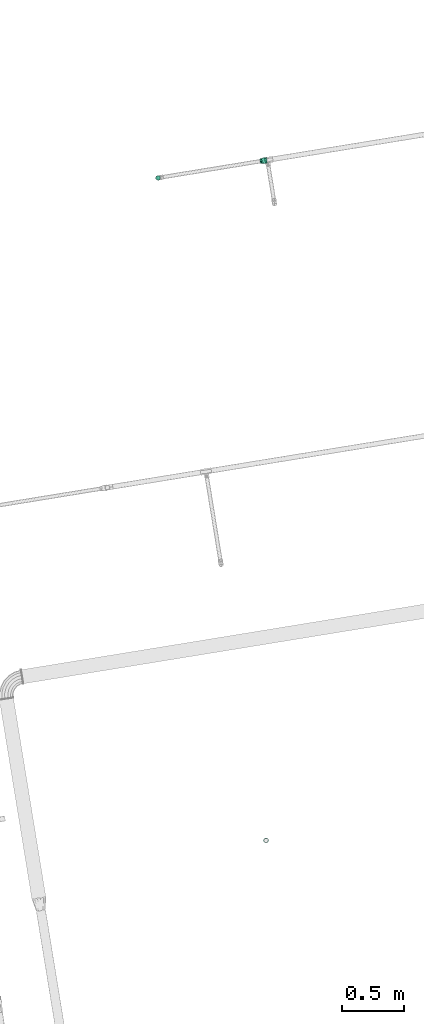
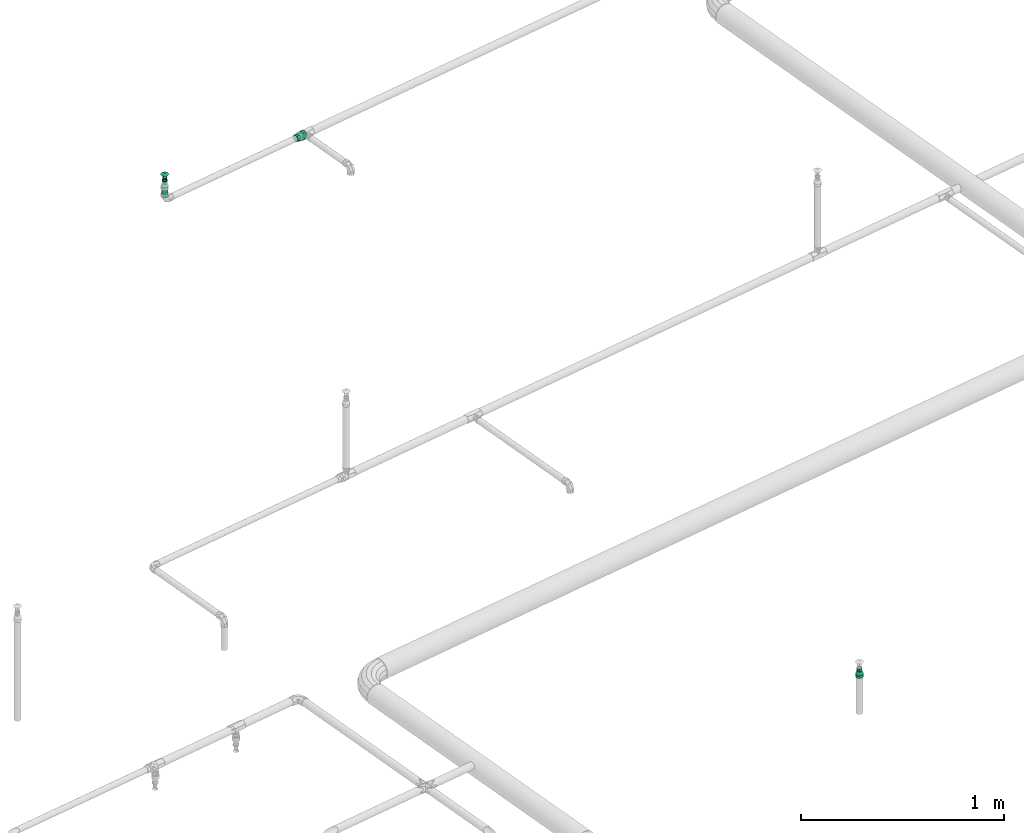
# One storey, part 35 of 46: 2 flow fittings, 1 flow segment, 1 flow terminal.
"""IFC2X3 building model written with IfcOpenShell, lengths in millimetres."""

from ifc_helpers import new_model, entity, si_unit, converted_unit, derived_unit, direction, frame, origin, origin_with_axes, origin_2d_with_axis, place, context, subcontext, project, spatial, circle, extrude, faceted_brep, source, transform, mapped, material, type_object, element, save


model = new_model("IFC2X3")

# Units and contexts
model_context = context("Model", 3, precision=0.01, world=origin(), true_north=direction((6.12323399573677e-17, 1.0)))
plan_context = context("Plan", 3, precision=1e-05, world=origin_with_axes())
body_context = subcontext(model_context, "Body", "Model", "MODEL_VIEW")
ifc_project = project(units=[converted_unit("PLANEANGLEUNIT", "DEGREE", entity("IfcPositiveLengthMeasure", 0.0174532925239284), si_unit("PLANEANGLEUNIT", "RADIAN"), dimensions=[0, 0, 0, 0, 0, 0, 0]), si_unit("AREAUNIT", "SQUARE_METRE"), si_unit("LENGTHUNIT", "METRE", prefix="MILLI"), si_unit("MASSUNIT", "GRAM", prefix="KILO"), si_unit("POWERUNIT", "WATT"), si_unit("PRESSUREUNIT", "PASCAL", prefix="KILO"), si_unit("FORCEUNIT", "NEWTON", prefix="KILO"), si_unit("ELECTRICVOLTAGEUNIT", "VOLT"), si_unit("ELECTRICCURRENTUNIT", "AMPERE"), si_unit("THERMODYNAMICTEMPERATUREUNIT", "DEGREE_CELSIUS"), si_unit("TIMEUNIT", "SECOND"), si_unit("VOLUMEUNIT", "CUBIC_METRE"), derived_unit("LINEARVELOCITYUNIT", [(si_unit("LENGTHUNIT", "METRE"), 1), (si_unit("TIMEUNIT", "SECOND"), -1)]), derived_unit("VOLUMETRICFLOWRATEUNIT", [(si_unit("VOLUMEUNIT", "CUBIC_METRE"), 1), (si_unit("TIMEUNIT", "SECOND"), -1)]), derived_unit("THERMALTRANSMITTANCEUNIT", [(si_unit("POWERUNIT", "WATT"), 1), (si_unit("THERMODYNAMICTEMPERATUREUNIT", "KELVIN"), -1), (si_unit("AREAUNIT", "SQUARE_METRE"), -1)]), derived_unit("SOUNDPRESSUREUNIT", [(si_unit("PRESSUREUNIT", "PASCAL"), 1)])], contexts=[model_context, plan_context])

# Site, building, storey
site_placement = place(None, frame((-3.09682673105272e-06, 1.93776733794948e-05, 0.0), z_axis=(0.0, 0.0, 1.0), x_axis=(-0.160806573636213, 0.986985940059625, 0.0)))
site = spatial("IfcSite", under=ifc_project, at=site_placement, Name="Default", CompositionType="ELEMENT")
building_placement = place(site_placement, frame((0.0, 0.0, 0.0), z_axis=(0.0, 0.0, 1.0), x_axis=(1.0, -2.77555756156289e-17, 0.0)))
building = spatial("IfcBuilding", under=site, at=building_placement, Name="Bygning (endres i Project Information)", CompositionType="ELEMENT")
storey_placement = place(building_placement, frame((0.0, 0.0, 51360.0000000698), z_axis=(0.0, 0.0, 1.0), x_axis=(1.0, -2.77555756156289e-17, 0.0)))
storey = spatial("IfcBuildingStorey", under=building, at=storey_placement, Name="H01-Nivå D+0,36", CompositionType="ELEMENT", Elevation=51360.0000000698)

# Flow fittings
ifc_material = material(Name="3320.001")
pipe_fitting_type_1 = type_object("IfcPipeFittingType", Name="RS_53_PIF_UN_Reducing-Socket-EN10241_MC_gen:RS_53_PIF_UN_Reducing-Socket-EN10241_MC_gen", PredefinedType="NOTDEFINED", material=ifc_material)
shared_shape_1 = source(origin(), body_context, "Body", "Brep", [
    faceted_brep([(0.0, 0.0, 24.5), (0.0, 6.34106660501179, 23.6651827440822), (0.0, 12.25, 21.2176223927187), (0.0, 17.3241161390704, 17.3241161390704), (0.0, 21.2176223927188, 12.25), (0.0, 23.6651827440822, 6.34106660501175), (0.0, 24.5, 0.0), (0.0, 23.6651827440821, -6.34106660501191), (0.0, 21.2176223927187, -12.2500000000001), (0.0, 17.3241161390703, -17.3241161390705), (0.0, 12.2499999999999, -21.2176223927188), (0.0, 6.34106660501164, -23.6651827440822), (0.0, 0.0, -24.5), (0.0, -6.34106660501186, -23.6651827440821), (0.0, -12.2500000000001, -21.2176223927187), (0.0, -17.3241161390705, -17.3241161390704), (0.0, -21.2176223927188, -12.2499999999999), (0.0, -23.6651827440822, -6.34106660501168), (0.0, -24.5, 0.0), (0.0, -23.6651827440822, 6.34106660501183), (0.0, -21.2176223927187, 12.2500000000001), (0.0, -17.3241161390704, 17.3241161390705), (0.0, -12.25, 21.2176223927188), (0.0, -6.34106660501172, 23.6651827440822), (18.6666666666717, -8.25137606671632, -22.6729794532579), (18.6666666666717, -18.7677686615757, -15.7486780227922), (18.6666666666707, -20.8950763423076, -12.0642027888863), (18.6666666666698, -23.0223840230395, -8.37972755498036), (18.6666666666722, -12.2493529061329, -21.2179959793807), (18.6666666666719, -15.5085607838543, -18.4833370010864), (18.6666666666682, -23.7125607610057, -4.46565710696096), (18.6666666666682, -23.7611920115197, -4.18986377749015), (18.6666666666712, -4.25339922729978, -24.1279629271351), (18.6666666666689, 4.25560674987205, -24.1275736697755), (18.6666666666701, 0.00110376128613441, -24.1277682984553), (18.6666666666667, -24.5, 0.0), (18.6666666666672, 8.25345045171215, -22.6722244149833), (18.6666666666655, 12.2512941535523, -21.2168751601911), (18.6666666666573, 23.0231506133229, -8.37762113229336), (18.6666666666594, 20.8961800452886, -12.062290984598), (18.6666666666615, 18.7692094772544, -15.7469608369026), (18.6666666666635, 15.5102518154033, -18.4819179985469), (18.6666666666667, 24.5, 0.0), (18.6666666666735, 18.7692094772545, 15.7469608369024), (18.666666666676, 20.8961800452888, 12.0622909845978), (18.6666666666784, 23.023150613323, 8.3776211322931), (18.6666666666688, 12.2512941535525, 21.216875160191), (18.6666666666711, 15.5102518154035, 18.4819179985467), (18.6666666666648, 4.25560674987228, 24.1275736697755), (18.6666666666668, 8.25345045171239, 22.6722244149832), (18.6666666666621, -4.25339922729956, 24.1279629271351), (18.6666666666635, 0.00110376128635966, 24.1277682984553), (18.6666666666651, -23.7611920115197, 4.1898637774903), (18.6666666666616, -8.25137606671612, 22.672979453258), (18.666666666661, -12.2493529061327, 21.2179959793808), (18.6666666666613, -15.5085607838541, 18.4833370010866), (18.6666666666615, -18.7677686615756, 15.7486780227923), (18.6666666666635, -23.0223840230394, 8.37972755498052), (18.6666666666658, -23.7125607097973, 4.46565739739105), (18.6666666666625, -20.8950763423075, 12.0642027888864), (37.3333333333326, 19.750000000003, 0.0), (37.3333333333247, 18.5595959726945, -6.75306577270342), (37.3333333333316, 9.87626627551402, -17.1032705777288), (37.3333333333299, 12.5033702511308, -14.8985095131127), (37.3333333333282, 15.1304742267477, -12.6937484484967), (37.3333333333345, 3.43075149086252, -19.4497414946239), (37.333333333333, 6.65350888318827, -18.2765060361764), (37.3333333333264, 16.8450350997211, -9.72340711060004), (37.3333333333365, -3.42859151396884, -19.4501223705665), (37.3333333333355, 0.00107998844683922, -19.4499319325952), (37.3333333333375, -9.87436684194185, -17.1043672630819), (37.333333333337, -6.65147917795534, -18.2772448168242), (37.3333333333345, -19.1544229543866, -3.37756341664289), (37.3333333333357, -18.558845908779, -6.75512683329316), (37.3333333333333, -19.7499999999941, 0.0), (37.3333333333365, -16.8439551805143, -9.72527774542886), (37.3333333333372, -15.1290644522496, -12.6954286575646), (37.3333333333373, -12.5017156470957, -14.8998979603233), (37.3333333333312, -18.5588459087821, 6.755126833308), (37.3333333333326, -19.1544229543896, 3.37756341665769), (37.3333333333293, -15.1290644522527, 12.6954286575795), (37.3333333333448, 18.559595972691, 6.75306577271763), (37.3333333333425, 16.8450350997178, 9.72340711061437), (37.3333333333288, -9.87436684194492, 17.104367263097), (37.3333333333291, -12.5017156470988, 14.8998979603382), (37.3333333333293, -6.65147917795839, 18.2772448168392), (37.3333333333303, -16.8439551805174, 9.72527774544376), (37.333333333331, 0.00107998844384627, 19.4499319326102), (37.3333333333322, 3.43075149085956, 19.4497414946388), (37.3333333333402, 15.1304742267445, 12.6937484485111), (37.333333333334, 6.65350888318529, 18.2765060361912), (37.3333333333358, 9.87626627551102, 17.1032705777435), (37.333333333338, 12.5033702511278, 14.8985095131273), (37.3333333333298, -3.42859151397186, 19.4501223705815), (56.0, 5.11167614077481, -19.0770350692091), (56.0, 9.87500000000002, -17.1040017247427), (56.0, 13.9653589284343, -13.9653589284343), (56.0, 17.1040017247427, -9.87499999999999), (56.0, 19.0770350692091, -5.11167614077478), (56.0, 19.75, 0.0), (56.0, 19.0770350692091, 5.1116761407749), (56.0, 17.1040017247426, 9.8750000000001), (56.0, 13.9653589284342, 13.9653589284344), (56.0, 9.87499999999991, 17.1040017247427), (56.0, 5.11167614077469, 19.0770350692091), (56.0, 0.0, 19.75), (56.0, -5.11167614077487, 19.0770350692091), (56.0, -9.87500000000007, 17.1040017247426), (56.0, -13.9653589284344, 13.9653589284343), (56.0, -17.1040017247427, 9.87499999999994), (56.0, -19.0770350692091, 5.11167614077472), (56.0, -19.75, 0.0), (56.0, -19.0770350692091, -5.11167614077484), (56.0, -17.1040017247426, -9.87500000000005), (56.0, -13.9653589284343, -13.9653589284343), (56.0, -9.87499999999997, -17.1040017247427), (56.0, -5.11167614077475, -19.0770350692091), (56.0, 0.0, -19.75)], [[[0, 1, 2, 3, 4, 5, 6, 7, 8, 9, 10, 11, 12, 13, 14, 15, 16, 17, 18, 19, 20, 21, 22, 23]], [[24, 14, 13]], [[16, 15, 25]], [[16, 25, 26, 27]], [[28, 29, 14]], [[17, 27, 30, 31]], [[31, 18, 17]], [[16, 27, 17]], [[13, 32, 24]], [[25, 15, 29]], [[12, 33, 34, 32]], [[24, 28, 14]], [[14, 29, 15]], [[31, 35, 18]], [[33, 12, 11]], [[36, 10, 37]], [[8, 38, 39, 40]], [[10, 36, 11]], [[8, 7, 38]], [[9, 40, 41]], [[33, 11, 36]], [[8, 40, 9]], [[41, 37, 10]], [[7, 42, 38]], [[7, 6, 42]], [[12, 32, 13]], [[41, 10, 9]], [[42, 6, 5]], [[4, 3, 43]], [[4, 43, 44, 45]], [[46, 47, 2]], [[45, 42, 5]], [[1, 48, 49]], [[43, 3, 47]], [[0, 50, 51, 48]], [[2, 47, 3]], [[50, 0, 23]], [[0, 48, 1]], [[18, 52, 19]], [[53, 22, 54]], [[49, 2, 1]], [[55, 22, 21]], [[35, 52, 18]], [[4, 45, 5]], [[22, 53, 23]], [[21, 56, 55]], [[50, 23, 53]], [[49, 46, 2]], [[20, 56, 21]], [[57, 20, 19]], [[19, 52, 58, 57]], [[55, 54, 22]], [[59, 56, 20, 57]], [[42, 60, 61]], [[41, 62, 37]], [[63, 40, 64]], [[40, 39, 64]], [[33, 36, 65]], [[65, 36, 66]], [[38, 42, 61]], [[64, 39, 67]], [[41, 40, 63]], [[36, 37, 66]], [[62, 41, 63]], [[38, 67, 39]], [[68, 34, 69]], [[68, 32, 34]], [[24, 70, 28]], [[32, 68, 71]], [[72, 35, 31, 30]], [[73, 27, 26]], [[72, 74, 35]], [[26, 75, 73]], [[76, 25, 29]], [[29, 77, 76]], [[70, 24, 71]], [[24, 32, 71]], [[70, 77, 28]], [[76, 75, 25]], [[28, 77, 29]], [[25, 75, 26]], [[73, 30, 27]], [[30, 73, 72]], [[66, 37, 62]], [[69, 34, 33]], [[69, 33, 65]], [[67, 38, 61]], [[78, 58, 79]], [[80, 55, 56]], [[81, 45, 82]], [[78, 59, 57]], [[83, 53, 54]], [[55, 80, 84]], [[79, 58, 52, 35]], [[78, 57, 58]], [[84, 54, 55]], [[85, 50, 53]], [[79, 35, 74]], [[86, 56, 59]], [[84, 83, 54]], [[48, 87, 88]], [[49, 48, 88]], [[59, 78, 86]], [[53, 83, 85]], [[87, 48, 51]], [[81, 60, 42]], [[44, 43, 89]], [[90, 46, 49]], [[47, 46, 91]], [[86, 80, 56]], [[82, 45, 44]], [[49, 88, 90]], [[92, 43, 47]], [[91, 46, 90]], [[51, 50, 93]], [[42, 45, 81]], [[85, 93, 50]], [[44, 89, 82]], [[51, 93, 87]], [[47, 91, 92]], [[89, 43, 92]], [[94, 95, 96, 97, 98, 99, 100, 101, 102, 103, 104, 105, 106, 107, 108, 109, 110, 111, 112, 113, 114, 115, 116, 117]], [[60, 99, 98]], [[97, 96, 64]], [[97, 64, 67, 61]], [[62, 63, 95]], [[61, 60, 98]], [[94, 65, 66]], [[64, 96, 63]], [[117, 68, 69, 65]], [[95, 63, 96]], [[117, 116, 68]], [[77, 70, 115]], [[66, 95, 94]], [[115, 70, 71]], [[113, 112, 73]], [[115, 71, 116]], [[117, 65, 94]], [[97, 61, 98]], [[72, 111, 74]], [[71, 68, 116]], [[113, 76, 114]], [[114, 76, 77]], [[77, 115, 114]], [[113, 73, 75, 76]], [[111, 72, 112]], [[66, 62, 95]], [[72, 73, 112]], [[85, 107, 106]], [[109, 108, 80]], [[109, 80, 86, 78]], [[83, 84, 107]], [[110, 78, 79]], [[79, 111, 110]], [[109, 78, 110]], [[106, 93, 85]], [[80, 108, 84]], [[105, 88, 87, 93]], [[85, 83, 107]], [[107, 84, 108]], [[79, 74, 111]], [[88, 105, 104]], [[90, 103, 91]], [[101, 81, 82, 89]], [[103, 90, 104]], [[101, 100, 81]], [[102, 89, 92]], [[88, 104, 90]], [[101, 89, 102]], [[92, 91, 103]], [[100, 60, 81]], [[100, 99, 60]], [[105, 93, 106]], [[92, 103, 102]]]),
])
flow_fitting_1_placement = place(storey_placement, frame((1008686.77221849, -349867.394230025, 3299.99991150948), z_axis=(6.24433694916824e-22, 2.24975948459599e-05, 0.999999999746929), x_axis=(0.0, 0.999999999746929, -2.24975948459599e-05)))
element("IfcFlowFitting", 1, at=flow_fitting_1_placement, inside=storey, type_object=pipe_fitting_type_1, material=ifc_material, Name="RS_53_PIF_UN_Reducing-Socket-EN10241_MC_gen:RS_53_PIF_UN_Reducing-Socket-EN10241_MC_gen", ObjectType="RS_53_PIF_UN_Reducing-Socket-EN10241_MC_gen:RS_53_PIF_UN_Reducing-Socket-EN10241_MC_gen", context=body_context, shape_type="MappedRepresentation", body=[
    mapped(shared_shape_1, transform((0.0, 0.0, 0.0), scale=1.0)),
])
pipe_fitting_type_2 = type_object("IfcPipeFittingType", Name="RS_53_PIF_UN_Reducing-Socket-EN10241_MC_gen:RS_53_PIF_UN_Reducing-Socket-EN10241_MC_gen", PredefinedType="NOTDEFINED", material=ifc_material)
shared_shape_2 = source(origin(), body_context, "Body", "Brep", [
    faceted_brep([(0.0, 0.0, 13.5), (0.0, 3.49405710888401, 13.0399986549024), (0.0, 6.74999999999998, 11.6913429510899), (0.0, 9.54594154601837, 9.54594154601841), (0.0, 11.6913429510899, 6.75000000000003), (0.0, 13.0399986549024, 3.49405710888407), (0.0, 13.5, 0.0), (0.0, 13.0399986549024, -3.49405710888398), (0.0, 11.6913429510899, -6.74999999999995), (0.0, 9.54594154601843, -9.54594154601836), (0.0, 6.75000000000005, -11.6913429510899), (0.0, 3.49405710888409, -13.0399986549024), (0.0, 0.0, -13.5), (0.0, -3.49405710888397, -13.0399986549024), (0.0, -6.74999999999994, -11.69134295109), (0.0, -9.54594154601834, -9.54594154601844), (0.0, -11.6913429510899, -6.75000000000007), (0.0, -13.0399986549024, -3.49405710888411), (0.0, -13.5, 0.0), (0.0, -13.0399986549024, 3.49405710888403), (0.0, -11.6913429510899, 6.74999999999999), (0.0, -9.5459415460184, 9.54594154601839), (0.0, -6.75000000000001, 11.6913429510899), (0.0, -3.49405710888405, 13.0399986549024), (17.0, 4.54589529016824, -12.4935366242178), (17.0, 10.3411162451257, -8.67820919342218), (17.0, 11.5134189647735, -6.64791735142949), (17.0, 12.6857216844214, -4.61762550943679), (17.0, 8.54506932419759, -10.1850582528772), (17.0, 6.74902240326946, -11.6919073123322), (17.0, 13.0928608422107, -2.30881275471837), (17.0, 13.5, 0.0), (17.0, 2.34276817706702, -13.2951659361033), (17.0, -0.00166747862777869, -13.2948718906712), (17.0, -2.34610313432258, -13.2945778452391), (17.0, -8.54762393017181, -10.1829144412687), (17.0, -6.75195505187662, -11.6902139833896), (17.0, -4.5490290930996, -12.4923959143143), (17.0, -11.5150862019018, -6.6450290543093), (17.0, -12.6868795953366, -4.61444320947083), (17.0, -10.343292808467, -8.67561489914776), (17.0, -13.5, 0.0), (17.0, -10.3432928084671, 8.67561489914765), (17.0, -11.5150862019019, 6.64502905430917), (17.0, -12.6868795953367, 4.61444320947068), (17.0, -8.54762393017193, 10.1829144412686), (17.0, -6.75195505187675, 11.6902139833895), (17.0, -4.54902909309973, 12.4923959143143), (17.0, -2.34610313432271, 13.2945778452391), (17.0, -0.00166747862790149, 13.2948718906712), (17.0, 2.3427681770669, 13.2951659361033), (17.0, 12.6857216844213, 4.61762550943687), (17.0, 8.5450693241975, 10.1850582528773), (17.0, 13.0928608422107, 2.30881275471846), (17.0, 11.5134189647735, 6.64791735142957), (17.0, 10.3411162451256, 8.67820919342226), (17.0, 4.54589529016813, 12.4935366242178), (17.0, 6.74902240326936, 11.6919073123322), (34.0, 18.5588149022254, -6.75521201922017), (34.0, -18.5598439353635, -6.75238425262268), (34.0, 9.87413131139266, -17.104503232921), (34.0, -0.00148173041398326, -19.4499240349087), (34.0, 3.42823440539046, -19.4501853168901), (34.0, 6.65118285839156, -18.2773442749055), (34.0, 15.1289479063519, -12.6955675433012), (34.0, 12.5015396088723, -14.9000353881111), (34.0, 16.8438814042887, -9.72538978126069), (34.0, 19.1648351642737, -3.3184704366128), (34.0, -9.87673730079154, -17.1029985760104), (34.0, -15.1308820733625, -12.6932622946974), (34.0, -3.43119786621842, -19.4496627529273), (34.0, -6.65396758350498, -18.2763306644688), (34.0, -16.845363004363, -9.72282327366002), (34.0, -12.503809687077, -14.8981304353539), (34.0, -19.7500000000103, 0.0), (34.0, 19.7499999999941, 0.0), (34.0, 19.1544074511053, 3.37760600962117), (34.0, 6.65118285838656, 18.2773442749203), (34.0, 12.5015396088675, 14.9000353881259), (34.0, -6.65396758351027, 18.2763306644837), (34.0, -3.43119786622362, 19.4496627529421), (34.0, -12.5038096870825, 14.8981304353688), (34.0, -9.87673730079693, 17.1029985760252), (34.0, -15.1308820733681, 12.6932622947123), (34.0, -16.8453630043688, 9.72282327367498), (34.0, -18.5598439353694, 6.75238425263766), (34.0, 16.843881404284, 9.7253897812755), (34.0, 18.5588149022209, 6.75521201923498), (34.0, -0.00148173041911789, 19.4499240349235), (34.0, 3.42823440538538, 19.4501853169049), (34.0, 9.87413131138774, 17.1045032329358), (34.0, 15.1289479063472, 12.695567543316), (51.0, 0.0, -19.75), (51.0, 5.11167614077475, -19.0770350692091), (51.0, 9.87499999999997, -17.1040017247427), (51.0, 13.9653589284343, -13.9653589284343), (51.0, 17.1040017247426, -9.87500000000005), (51.0, 19.0770350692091, -5.11167614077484), (51.0, 19.75, 0.0), (51.0, 19.0770350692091, 5.11167614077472), (51.0, 17.1040017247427, 9.87499999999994), (51.0, 13.9653589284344, 13.9653589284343), (51.0, 9.87500000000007, 17.1040017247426), (51.0, 5.11167614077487, 19.0770350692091), (51.0, 0.0, 19.75), (51.0, -5.11167614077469, 19.0770350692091), (51.0, -9.87499999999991, 17.1040017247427), (51.0, -13.9653589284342, 13.9653589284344), (51.0, -17.1040017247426, 9.8750000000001), (51.0, -19.0770350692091, 5.1116761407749), (51.0, -19.75, 0.0), (51.0, -19.0770350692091, -5.11167614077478), (51.0, -17.1040017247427, -9.87499999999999), (51.0, -13.9653589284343, -13.9653589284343), (51.0, -9.87500000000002, -17.1040017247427), (51.0, -5.11167614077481, -19.0770350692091)], [[[0, 1, 2, 3, 4, 5, 6, 7, 8, 9, 10, 11, 12, 13, 14, 15, 16, 17, 18, 19, 20, 21, 22, 23]], [[11, 10, 24]], [[25, 9, 8]], [[26, 25, 8, 27]], [[10, 28, 29]], [[30, 27, 7]], [[6, 31, 30]], [[7, 6, 30]], [[24, 32, 11]], [[28, 9, 25]], [[33, 34, 12, 32]], [[15, 14, 35]], [[9, 28, 10]], [[10, 29, 24]], [[13, 12, 34]], [[36, 14, 37]], [[38, 39, 16, 40]], [[13, 37, 14]], [[39, 17, 16]], [[35, 40, 15]], [[37, 13, 34]], [[11, 32, 12]], [[15, 40, 16]], [[39, 41, 17]], [[7, 27, 8]], [[41, 18, 17]], [[14, 36, 35]], [[19, 18, 41]], [[42, 21, 20]], [[43, 42, 20, 44]], [[22, 45, 46]], [[19, 41, 44]], [[47, 48, 23]], [[45, 21, 42]], [[49, 50, 0, 48]], [[21, 45, 22]], [[23, 22, 47]], [[22, 46, 47]], [[19, 44, 20]], [[0, 50, 1]], [[51, 5, 4]], [[3, 2, 52]], [[5, 53, 6]], [[54, 51, 4, 55]], [[53, 31, 6]], [[1, 50, 56]], [[56, 57, 2]], [[3, 55, 4]], [[1, 56, 2]], [[52, 55, 3]], [[23, 48, 0]], [[5, 51, 53]], [[2, 57, 52]], [[27, 30, 58]], [[38, 59, 39]], [[28, 60, 29]], [[61, 32, 62]], [[29, 60, 63]], [[25, 64, 65]], [[28, 25, 65]], [[27, 58, 66]], [[26, 27, 66]], [[30, 31, 67]], [[66, 64, 26]], [[33, 32, 61]], [[26, 64, 25]], [[37, 68, 36]], [[65, 60, 28]], [[35, 69, 40]], [[70, 34, 33]], [[34, 70, 71]], [[37, 34, 71]], [[61, 70, 33]], [[40, 69, 72]], [[36, 68, 73]], [[41, 39, 74]], [[75, 67, 31]], [[72, 59, 38]], [[24, 62, 32]], [[73, 69, 35]], [[39, 59, 74]], [[30, 67, 58]], [[24, 29, 63]], [[63, 62, 24]], [[35, 36, 73]], [[71, 68, 37]], [[38, 40, 72]], [[74, 44, 41]], [[53, 76, 31]], [[56, 77, 57]], [[52, 78, 55]], [[79, 80, 48]], [[81, 82, 46]], [[42, 83, 45]], [[84, 83, 42]], [[44, 85, 43]], [[85, 44, 74]], [[83, 81, 45]], [[43, 85, 84]], [[54, 86, 51]], [[53, 51, 87]], [[79, 47, 82]], [[46, 82, 47]], [[88, 89, 50]], [[90, 57, 77]], [[50, 89, 56]], [[48, 80, 49]], [[87, 51, 86]], [[91, 55, 78]], [[31, 76, 75]], [[47, 79, 48]], [[56, 89, 77]], [[49, 88, 50]], [[54, 91, 86]], [[87, 76, 53]], [[45, 81, 46]], [[78, 52, 90]], [[43, 84, 42]], [[57, 90, 52]], [[80, 88, 49]], [[55, 91, 54]], [[92, 93, 94, 95, 96, 97, 98, 99, 100, 101, 102, 103, 104, 105, 106, 107, 108, 109, 110, 111, 112, 113, 114, 115]], [[111, 110, 74]], [[69, 113, 112]], [[72, 69, 112, 59]], [[114, 73, 68]], [[111, 74, 59]], [[71, 70, 115]], [[73, 113, 69]], [[61, 62, 92, 70]], [[113, 73, 114]], [[93, 92, 62]], [[95, 64, 96]], [[60, 94, 63]], [[111, 59, 112]], [[114, 68, 71]], [[94, 60, 65]], [[67, 75, 98]], [[93, 63, 94]], [[65, 64, 95]], [[63, 93, 62]], [[115, 114, 71]], [[97, 67, 98]], [[97, 96, 58]], [[58, 67, 97]], [[95, 94, 65]], [[96, 64, 66, 58]], [[115, 70, 92]], [[103, 102, 77]], [[91, 101, 100]], [[86, 91, 100, 87]], [[102, 78, 90]], [[76, 87, 99]], [[99, 98, 76]], [[99, 87, 100]], [[77, 89, 103]], [[78, 101, 91]], [[88, 80, 104, 89]], [[102, 90, 77]], [[101, 78, 102]], [[98, 75, 76]], [[105, 104, 80]], [[82, 106, 79]], [[84, 85, 108, 83]], [[105, 79, 106]], [[85, 109, 108]], [[81, 83, 107]], [[79, 105, 80]], [[107, 83, 108]], [[106, 82, 81]], [[85, 74, 109]], [[74, 110, 109]], [[103, 89, 104]], [[107, 106, 81]]]),
])
flow_fitting_2_placement = place(storey_placement, frame((1003275.40186569, -348978.631006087, 3418.99999993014), z_axis=(2.77555756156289e-17, 1.0, 0.0), x_axis=(0.0, 0.0, -1.0)))
element("IfcFlowFitting", 2, at=flow_fitting_2_placement, inside=storey, type_object=pipe_fitting_type_2, material=ifc_material, Name="RS_53_PIF_UN_Reducing-Socket-EN10241_MC_gen:RS_53_PIF_UN_Reducing-Socket-EN10241_MC_gen", ObjectType="RS_53_PIF_UN_Reducing-Socket-EN10241_MC_gen:RS_53_PIF_UN_Reducing-Socket-EN10241_MC_gen", context=body_context, shape_type="MappedRepresentation", body=[
    mapped(shared_shape_2, transform((0.0, 0.0, 0.0), scale=1.0)),
])

# Flow terminal
fire_suppression_terminal_type = type_object("IfcFireSuppressionTerminalType", Name="SU-15-K80-68DGR-STD:SU-15-K80-68DGR-STD", PredefinedType="NOTDEFINED", material=ifc_material)
shared_shape_3 = source(origin(), body_context, "Body", "Brep", [
    faceted_brep([(-2.5, 0.0, 62.0), (0.0, -2.5, 62.0), (2.5, 0.0, 62.0), (0.0, 2.5, 62.0), (-2.5, 0.0, 59.0), (0.0, 2.5, 59.0), (2.5, 0.0, 59.0), (0.0, -2.5, 59.0)], [[[0, 1, 2, 3]], [[4, 5, 6, 7]], [[0, 4, 7, 1]], [[7, 6, 2, 1]], [[2, 6, 5, 3]], [[5, 4, 0, 3]]]),
    faceted_brep([(1.0, -13.5, 47.0), (1.0, -13.5, 19.0), (1.0, -8.5, 19.0), (1.0, -8.5, 42.0), (1.0, 8.5, 42.0), (1.0, 8.5, 19.0), (1.0, 13.5, 19.0), (1.0, 13.5, 47.0), (-1.0, -13.5, 47.0), (-1.0, 13.5, 47.0), (-1.0, 13.5, 19.0), (-1.0, 8.5, 19.0), (-1.0, 8.5, 42.0), (-1.0, -8.5, 42.0), (-1.0, -8.5, 19.0), (-1.0, -13.5, 19.0)], [[[0, 1, 2, 3, 4, 5, 6, 7]], [[8, 9, 10, 11, 12, 13, 14, 15]], [[1, 0, 8, 15]], [[2, 1, 15, 14]], [[3, 2, 14, 13]], [[4, 3, 13, 12]], [[5, 4, 12, 11]], [[6, 5, 11, 10]], [[7, 6, 10, 9]], [[0, 7, 9, 8]]]),
    faceted_brep([(-13.5, 1.0, 47.0), (13.5, 1.0, 47.0), (13.5, 1.0, 19.0), (8.5, 1.0, 19.0), (8.5, 1.0, 42.0), (-8.5, 1.0, 42.0), (-8.5, 1.0, 19.0), (-13.5, 1.0, 19.0), (-13.5, -1.0, 47.0), (-13.5, -1.0, 19.0), (-8.5, -1.0, 19.0), (-8.5, -1.0, 42.0), (8.5, -1.0, 42.0), (8.5, -1.0, 19.0), (13.5, -1.0, 19.0), (13.5, -1.0, 47.0)], [[[0, 1, 2, 3, 4, 5, 6, 7]], [[8, 9, 10, 11, 12, 13, 14, 15]], [[1, 0, 8, 15]], [[2, 1, 15, 14]], [[3, 2, 14, 13]], [[4, 3, 13, 12]], [[5, 4, 12, 11]], [[6, 5, 11, 10]], [[7, 6, 10, 9]], [[0, 7, 9, 8]]]),
    faceted_brep([(0.0, 2.5, 59.0), (-2.5, 0.0, 59.0), (0.0, -2.5, 59.0), (2.5, 0.0, 59.0), (6.4893568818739, 19.9721868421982, 53.0), (16.9893568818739, 12.3434902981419, 53.0), (21.0, 0.0, 53.0), (16.989356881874, -12.3434902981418, 53.0), (6.48935688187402, -19.9721868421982, 53.0), (-6.48935688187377, -19.9721868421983, 53.0), (-16.9893568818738, -12.343490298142, 53.0), (-21.0, 0.0, 53.0), (-16.9893568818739, 12.3434902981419, 53.0), (-6.48935688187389, 19.9721868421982, 53.0)], [[[0, 1, 2, 3]], [[4, 5, 6, 7, 8, 9, 10, 11, 12, 13]], [[6, 3, 7]], [[2, 8, 7]], [[7, 3, 2]], [[2, 1, 10]], [[2, 10, 9]], [[10, 1, 11]], [[2, 9, 8]], [[11, 1, 12]], [[0, 13, 12]], [[12, 1, 0]], [[0, 3, 5]], [[0, 5, 4]], [[5, 3, 6]], [[0, 4, 13]]]),
    faceted_brep([(-2.5, 0.0, 53.0), (0.0, -2.5, 53.0), (2.5, 0.0, 53.0), (0.0, 2.5, 53.0), (-2.5, 0.0, 19.0), (0.0, 2.5, 19.0), (2.5, 0.0, 19.0), (0.0, -2.5, 19.0)], [[[0, 1, 2, 3]], [[4, 5, 6, 7]], [[0, 4, 7, 1]], [[7, 6, 2, 1]], [[2, 6, 5, 3]], [[5, 4, 0, 3]]]),
    faceted_brep([(3.62346663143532, -13.5229615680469, 19.0), (7.0, -12.1243556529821, 19.0), (9.89949493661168, -9.89949493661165, 19.0), (12.1243556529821, -7.0, 19.0), (13.522961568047, -3.62346663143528, 19.0), (14.0, 0.0, 19.0), (13.522961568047, 3.62346663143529, 19.0), (12.1243556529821, 7.0, 19.0), (9.89949493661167, 9.89949493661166, 19.0), (7.0, 12.1243556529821, 19.0), (3.62346663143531, 13.522961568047, 19.0), (0.0, 14.0, 19.0), (-3.62346663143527, 13.522961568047, 19.0), (-7.0, 12.1243556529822, 19.0), (-9.89949493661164, 9.89949493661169, 19.0), (-12.1243556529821, 7.0, 19.0), (-13.5229615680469, 3.62346663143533, 19.0), (-14.0, 0.0, 19.0), (-13.5229615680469, -3.62346663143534, 19.0), (-12.1243556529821, -7.0, 19.0), (-9.89949493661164, -9.89949493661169, 19.0), (-7.0, -12.1243556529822, 19.0), (-3.62346663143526, -13.522961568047, 19.0), (0.0, -14.0, 19.0), (9.89949493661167, 9.89949493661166, 13.0), (12.1243556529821, 7.0, 13.0), (13.522961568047, 3.62346663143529, 13.0), (14.0, 0.0, 13.0), (13.522961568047, -3.62346663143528, 13.0), (12.1243556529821, -7.0, 13.0), (9.89949493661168, -9.89949493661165, 13.0), (7.0, -12.1243556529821, 13.0), (3.62346663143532, -13.5229615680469, 13.0), (0.0, -14.0, 13.0), (-3.62346663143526, -13.522961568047, 13.0), (-7.0, -12.1243556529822, 13.0), (-9.89949493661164, -9.89949493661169, 13.0), (-12.1243556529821, -7.0, 13.0), (-13.5229615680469, -3.62346663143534, 13.0), (-14.0, 0.0, 13.0), (-13.5229615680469, 3.62346663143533, 13.0), (-12.1243556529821, 7.0, 13.0), (-9.89949493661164, 9.89949493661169, 13.0), (-7.0, 12.1243556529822, 13.0), (-3.62346663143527, 13.522961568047, 13.0), (0.0, 14.0, 13.0), (3.62346663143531, 13.522961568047, 13.0), (7.0, 12.1243556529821, 13.0)], [[[0, 1, 2, 3, 4, 5, 6, 7, 8, 9, 10, 11, 12, 13, 14, 15, 16, 17, 18, 19, 20, 21, 22, 23]], [[24, 25, 26, 27, 28, 29, 30, 31, 32, 33, 34, 35, 36, 37, 38, 39, 40, 41, 42, 43, 44, 45, 46, 47]], [[38, 18, 17, 39]], [[37, 19, 18, 38]], [[21, 20, 36, 35]], [[37, 36, 20, 19]], [[22, 21, 35, 34]], [[23, 22, 34, 33]], [[32, 0, 23, 33]], [[31, 1, 0, 32]], [[3, 2, 30, 29]], [[31, 30, 2, 1]], [[4, 3, 29, 28]], [[5, 4, 28, 27]], [[26, 6, 5, 27]], [[25, 7, 6, 26]], [[9, 8, 24, 47]], [[25, 24, 8, 7]], [[10, 9, 47, 46]], [[11, 10, 46, 45]], [[44, 12, 11, 45]], [[43, 13, 12, 44]], [[15, 14, 42, 41]], [[43, 42, 14, 13]], [[16, 15, 41, 40]], [[17, 16, 40, 39]]]),
    faceted_brep([(1.94114283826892, -7.24444369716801, 13.0), (3.75000000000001, -6.49519052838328, 13.0), (5.30330085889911, -5.3033008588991, 13.0), (6.49519052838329, -3.75, 13.0), (7.24444369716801, -1.9411428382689, 13.0), (7.5, 0.0, 13.0), (7.24444369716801, 1.9411428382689, 13.0), (6.49519052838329, 3.75, 13.0), (5.30330085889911, 5.3033008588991, 13.0), (3.75000000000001, 6.49519052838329, 13.0), (1.94114283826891, 7.24444369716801, 13.0), (0.0, 7.5, 13.0), (-1.94114283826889, 7.24444369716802, 13.0), (-3.74999999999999, 6.4951905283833, 13.0), (-5.3033008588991, 5.30330085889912, 13.0), (-6.49519052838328, 3.75000000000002, 13.0), (-7.24444369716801, 1.94114283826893, 13.0), (-7.5, 0.0, 13.0), (-7.244443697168, -1.94114283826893, 13.0), (-6.49519052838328, -3.75000000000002, 13.0), (-5.30330085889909, -5.30330085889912, 13.0), (-3.74999999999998, -6.4951905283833, 13.0), (-1.94114283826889, -7.24444369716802, 13.0), (0.0, -7.5, 13.0), (5.30330085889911, 5.3033008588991, 0.0), (6.49519052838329, 3.75, 0.0), (7.24444369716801, 1.9411428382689, 0.0), (7.5, 0.0, 0.0), (7.24444369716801, -1.9411428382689, 0.0), (6.49519052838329, -3.75, 0.0), (5.30330085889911, -5.3033008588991, 0.0), (3.75000000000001, -6.49519052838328, 0.0), (1.94114283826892, -7.24444369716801, 0.0), (0.0, -7.5, 0.0), (-1.94114283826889, -7.24444369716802, 0.0), (-3.74999999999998, -6.4951905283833, 0.0), (-5.30330085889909, -5.30330085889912, 0.0), (-6.49519052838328, -3.75000000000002, 0.0), (-7.244443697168, -1.94114283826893, 0.0), (-7.5, 0.0, 0.0), (-7.24444369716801, 1.94114283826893, 0.0), (-6.49519052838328, 3.75000000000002, 0.0), (-5.3033008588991, 5.30330085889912, 0.0), (-3.74999999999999, 6.4951905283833, 0.0), (-1.94114283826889, 7.24444369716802, 0.0), (0.0, 7.5, 0.0), (1.94114283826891, 7.24444369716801, 0.0), (3.75000000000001, 6.49519052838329, 0.0)], [[[0, 1, 2, 3, 4, 5, 6, 7, 8, 9, 10, 11, 12, 13, 14, 15, 16, 17, 18, 19, 20, 21, 22, 23]], [[24, 25, 26, 27, 28, 29, 30, 31, 32, 33, 34, 35, 36, 37, 38, 39, 40, 41, 42, 43, 44, 45, 46, 47]], [[38, 18, 17, 39]], [[37, 19, 18, 38]], [[21, 20, 36, 35]], [[37, 36, 20, 19]], [[22, 21, 35, 34]], [[23, 22, 34, 33]], [[32, 0, 23, 33]], [[31, 1, 0, 32]], [[3, 2, 30, 29]], [[31, 30, 2, 1]], [[4, 3, 29, 28]], [[5, 4, 28, 27]], [[26, 6, 5, 27]], [[25, 7, 6, 26]], [[9, 8, 24, 47]], [[25, 24, 8, 7]], [[10, 9, 47, 46]], [[11, 10, 46, 45]], [[44, 12, 11, 45]], [[43, 13, 12, 44]], [[15, 14, 42, 41]], [[43, 42, 14, 13]], [[16, 15, 41, 40]], [[17, 16, 40, 39]]]),
])
flow_terminal_placement = place(storey_placement, frame((1008686.77221849, -348978.631006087, 3401.99999993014), z_axis=(0.0, 0.0, 1.0), x_axis=(1.0, -2.77555756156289e-17, 0.0)))
element("IfcFlowTerminal", 3, at=flow_terminal_placement, inside=storey, type_object=fire_suppression_terminal_type, material=ifc_material, Name="SU-15-K80-68DGR-STD:SU-15-K80-68DGR-STD", ObjectType="SU-15-K80-68DGR-STD:SU-15-K80-68DGR-STD", context=body_context, shape_type="MappedRepresentation", body=[
    mapped(shared_shape_3, transform((0.0, 0.0, 0.0), scale=1.0)),
])

# Flow segment
pipe_segment_type = type_object("IfcPipeSegmentType", Name="Pipe Types:Stålrør sveist og gjenget", PredefinedType="NOTDEFINED", material=ifc_material)
flow_segment_placement = place(storey_placement, frame((0.0, 0.0, 0.0), z_axis=(0.0, 0.0, 1.0), x_axis=(1.0, -2.77555756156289e-17, 0.0)))
element("IfcFlowSegment", 4, at=flow_segment_placement, inside=storey, type_object=pipe_segment_type, Name="Pipe Types:Stålrør sveist og gjenget", ObjectType="Pipe Types:Stålrør sveist og gjenget", context=body_context, shape_type="SweptSolid", body=[
    extrude(circle(Radius=16.8500004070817, at=origin_2d_with_axis()), frame((1008686.77221849, -348978.631006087, 3321.73040580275)), (0.0, 0.0, 1.0), 63.2695941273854),
])

save(model, "model.ifc")
